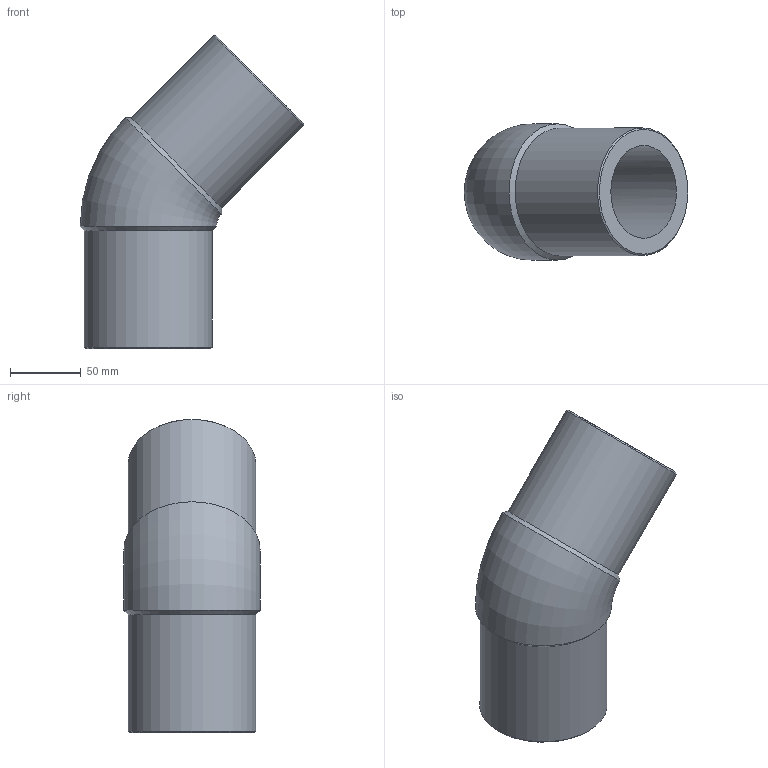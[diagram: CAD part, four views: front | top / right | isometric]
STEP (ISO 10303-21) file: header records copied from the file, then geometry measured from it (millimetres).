
FILE_DESCRIPTION(/* description */ ('Unknown'),/* implementation_level */ '2;1');
FILE_NAME(/* name */ 'G4P090H',/* time_stamp */ '2022-01-21T09:42:03+01:00',/* author */ ('Unknown'),/* organization */ ('Unknown'),/* preprocessor_version */ 'ST-DEVELOPER v18.1',/* originating_system */ 'Solid Edge',/* authorisation */ 'Unknown');
FILE_SCHEMA (('AUTOMOTIVE_DESIGN {1 0 10303 214 3 1 1}'));
Length unit declared in the file: millimetre
Products named in the file (1): G4P090H
Bounding box: 157.6 x 96 x 220.6 mm (x, y, z)
Volume: 704380.7 mm3; surface area: 114478.5 mm2
Topology: 1 solids, 1 shells, 12 faces, 30 edges, 20 vertices
Faces by surface type: cone 4, cylinder 4, plane 2, torus 2
Full cylindrical faces by diameter (mm): 65.4 x2, 90 x2
Entity records: 326 total; most frequent: CARTESIAN_POINT 60, DIRECTION 52, ORIENTED_EDGE 34, AXIS2_PLACEMENT_3D 26, EDGE_LOOP 23, FACE_BOUND 23, EDGE_CURVE 17, VERTEX_POINT 16
